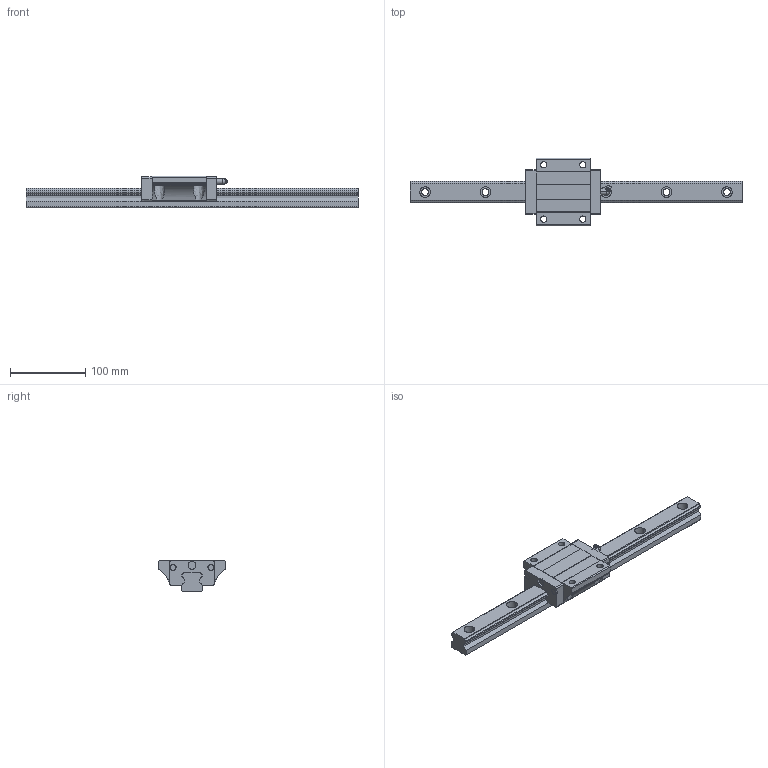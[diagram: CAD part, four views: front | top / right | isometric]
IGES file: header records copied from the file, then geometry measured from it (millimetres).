
Global section: file name: No Iges File Name specified; native system: AutoDesk Inventor R10; preprocessor: AutoDesk Inventor Iges Exporter R10; author: No Author specified; organization: No Organization specified; date: 20101222.163922; units: millimetre
Bounding box: 440 x 90 x 42 mm (x, y, z)
Surface area: 86541.4 mm2 (no closed solid volume)
Topology: 0 solids, 0 shells, 210 faces, 1446 edges, 1434 vertices
Faces by surface type: bspline 210
